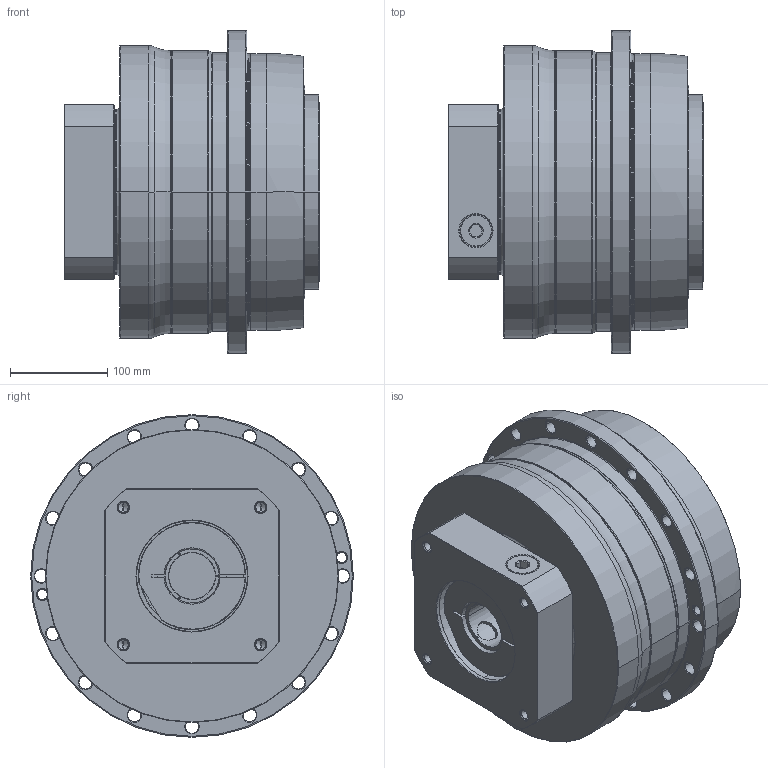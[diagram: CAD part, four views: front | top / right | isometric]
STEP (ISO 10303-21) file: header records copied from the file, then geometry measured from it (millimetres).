
FILE_DESCRIPTION((''),'2;1');
FILE_NAME('AH285_1ST_48-P0409B00101_ASM','2016-10-14T',('d00435'),(''),'PRO/ENGINEER BY PARAMETRIC TECHNOLOGY CORPORATION, 2008410','PRO/ENGINEER BY PARAMETRIC TECHNOLOGY CORPORATION, 2008410','');
FILE_SCHEMA(('CONFIG_CONTROL_DESIGN'));
Length unit declared in the file: millimetre
Products named in the file (8): P0278800003; P0359800003; P1318800301; P0409B00101; P0503B00016; P0912803201; 21711426021; AH285_1ST_48-P0409B00101_ASM
Assembly tree (7 placements, depth 2):
  AH285_1ST_48-P0409B00101_ASM
    P0278800003
    P0359800003
    P1318800301
    P0409B00101
    P0503B00016
    P0912803201
    21711426021
Bounding box: 263 x 332 x 332 mm (x, y, z)
Volume: 14843807.2 mm3; surface area: 975182.2 mm2
Topology: 8 solids, 34 shells, 656 faces, 1523 edges, 921 vertices
Faces by surface type: cylinder 270, cone 194, plane 116, torus 62, bspline 14
Entity records: 23378 total; most frequent: CARTESIAN_POINT 7982, DIRECTION 3529, ORIENTED_EDGE 2850, AXIS2_PLACEMENT_3D 1497, EDGE_CURVE 1477, VERTEX_POINT 921, CIRCLE 828, EDGE_LOOP 790
